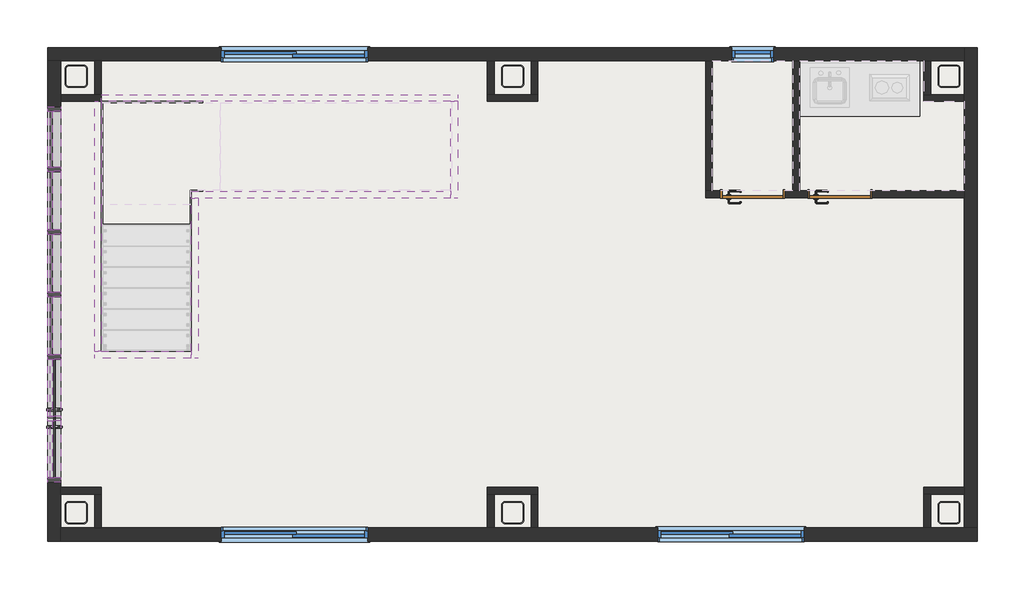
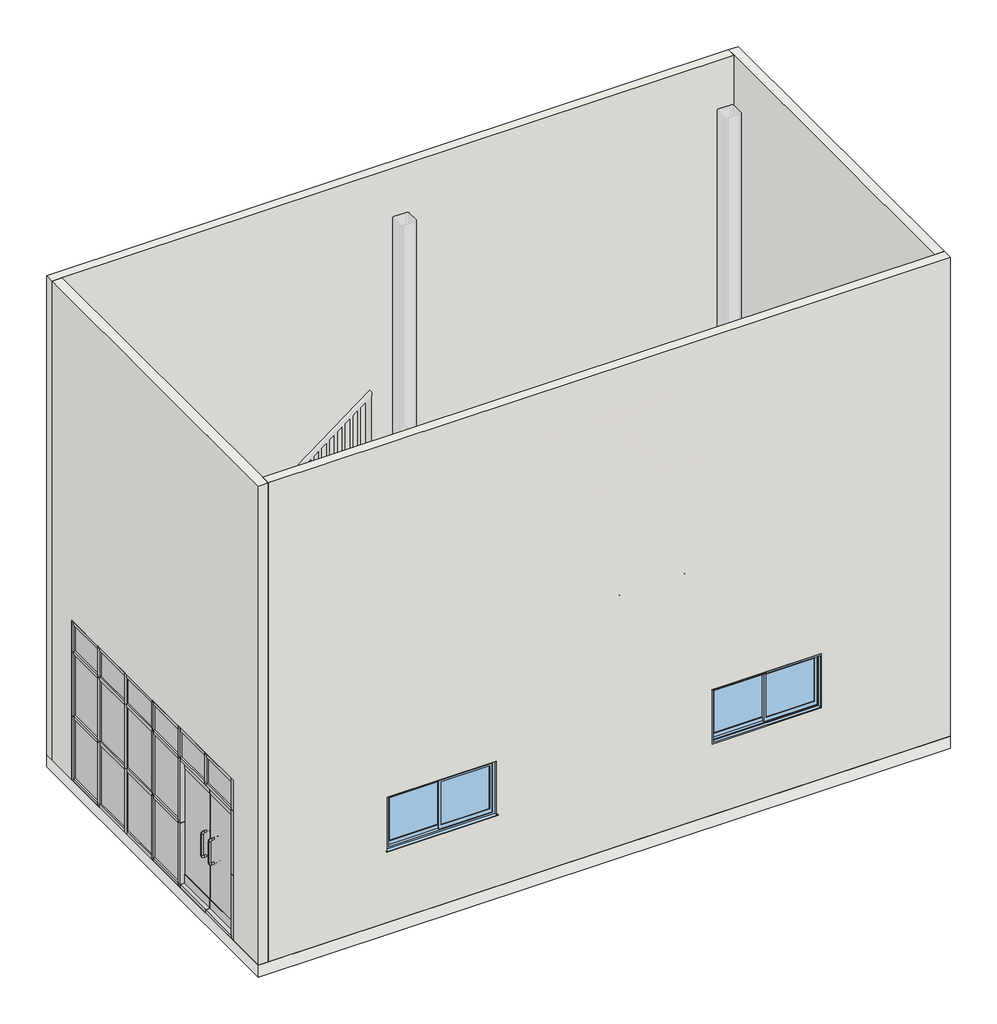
# One storey, part 1 of 2: 41 members, 27 walls, 15 plates, 4 windows, 2 doors, 1 slab.
"""IFC4 building model written with IfcOpenShell, lengths in millimetres."""

from ifc_helpers import new_model, si_unit, frame, origin, origin_with_axes, place, context, project, spatial, polyline, outline, extrude, faceted_brep, transform, mapped, element, save
from components import w700h2000_2a992a34, member_50x150mm_a0e2e66f, member_50x150mm_a9c68ae1, member_50x150mm_62bde7b1, member_50x150mm_43fc7b63, member_50x150mm_86d21357, member_50x150mm_22f77a7a, member_50x150mm_8a69f4a4, member_50x150mm_b3666dbd, member_50x150mm_1a36453b, member_50x150mm_5157afd8, member_50x150mm_37d6beb1, member_50x150mm_f4543df4, plate_bb3d00ed, plate_81b017a3, plate_3e90128c, plate_3f01d40e, plate_8868ab24, plate_6b8e4332, plate_e66cd56a, plate_cf903d6a, w0400h0800_0b9f01bb, w1600h0800_d7cd19be

model = new_model("IFC4")

# Units and contexts
model_context = context("Model", 3, world=origin())
ifc_project = project(units=[si_unit("LENGTHUNIT", "METRE", prefix="MILLI")], contexts=[model_context])

# Site, building, storey
site = spatial("IfcSite", under=ifc_project)
building = spatial("IfcBuilding", under=site)
storey = spatial("IfcBuildingStorey", under=building, Name="1階", Elevation=200.0)

# Doors
placement = place(None, origin())
w700h2000_shape = w700h2000_2a992a34(model_context)
element("IfcDoor", 1, ObjectType="片開き : w700h2000", at=placement, inside=storey, context=model_context, shape_type="MappedRepresentation", body=[
    mapped(w700h2000_shape, transform((2702.6119436, 1236.0382733, 200.0), x_axis=(1.0, 0.0, 0.0), y_axis=(0.0, 1.0, 0.0), z_axis=(0.0, 0.0, 1.0))),
])
element("IfcDoor", 2, ObjectType="片開き : w700h2000", at=placement, inside=storey, context=model_context, shape_type="MappedRepresentation", body=[
    mapped(w700h2000_shape, transform((3702.6119436, 1236.0382733, 200.0), x_axis=(1.0, 0.0, 0.0), y_axis=(0.0, 1.0, 0.0), z_axis=(0.0, 0.0, 1.0))),
])

# Members
member_50x150mm_shape = member_50x150mm_a0e2e66f(model_context)
element("IfcMember", 3, ObjectType="長方形マリオン : 50x150mm", at=placement, inside=storey, context=model_context, shape_type="MappedRepresentation", body=[
    mapped(member_50x150mm_shape, transform((-5297.3880564, 2186.0382733, 2800.0), x_axis=(0.0, 0.0, 1.0), y_axis=(1.0, 0.0, 0.0), z_axis=(0.0, 1.0, 0.0))),
])
member_50x150mm_2_shape = member_50x150mm_a9c68ae1(model_context)
element("IfcMember", 4, ObjectType="長方形マリオン : 50x150mm", at=placement, inside=storey, context=model_context, shape_type="MappedRepresentation", body=[
    mapped(member_50x150mm_2_shape, transform((-5297.3880564, 86.0382733, 200.0), x_axis=(0.0, 1.0, 0.0), y_axis=(1.0, 0.0, 0.0), z_axis=(0.0, 0.0, -1.0))),
])
element("IfcMember", 5, ObjectType="長方形マリオン : 50x150mm", at=placement, inside=storey, context=model_context, shape_type="MappedRepresentation", body=[
    mapped(member_50x150mm_2_shape, transform((-5297.3880564, 1519.3716066, 200.0), x_axis=(0.0, 1.0, 0.0), y_axis=(1.0, 0.0, 0.0), z_axis=(0.0, 0.0, -1.0))),
])
element("IfcMember", 6, ObjectType="長方形マリオン : 50x150mm", at=placement, inside=storey, context=model_context, shape_type="MappedRepresentation", body=[
    mapped(member_50x150mm_2_shape, transform((-5297.3880564, 802.7049399, 200.0), x_axis=(0.0, 1.0, 0.0), y_axis=(1.0, 0.0, 0.0), z_axis=(0.0, 0.0, -1.0))),
])
element("IfcMember", 7, ObjectType="長方形マリオン : 50x150mm", at=placement, inside=storey, context=model_context, shape_type="MappedRepresentation", body=[
    mapped(member_50x150mm_2_shape, transform((-5297.3880564, -630.6283934, 200.0), x_axis=(0.0, 1.0, 0.0), y_axis=(1.0, 0.0, 0.0), z_axis=(0.0, 0.0, -1.0))),
])
member_50x150mm_3_shape = member_50x150mm_62bde7b1(model_context)
element("IfcMember", 8, ObjectType="長方形マリオン : 50x150mm", at=placement, inside=storey, context=model_context, shape_type="MappedRepresentation", body=[
    mapped(member_50x150mm_3_shape, transform((-5297.3880564, 2186.0382733, 2300.0), x_axis=(0.0, 0.0, 1.0), y_axis=(1.0, 0.0, 0.0), z_axis=(0.0, 1.0, 0.0))),
])
element("IfcMember", 9, ObjectType="長方形マリオン : 50x150mm", at=placement, inside=storey, context=model_context, shape_type="MappedRepresentation", body=[
    mapped(member_50x150mm_3_shape, transform((-5297.3880564, 2186.0382733, 1250.0), x_axis=(0.0, 0.0, 1.0), y_axis=(1.0, 0.0, 0.0), z_axis=(0.0, 1.0, 0.0))),
])
member_50x150mm_4_shape = member_50x150mm_43fc7b63(model_context)
element("IfcMember", 10, ObjectType="長方形マリオン : 50x150mm", at=placement, inside=storey, context=model_context, shape_type="MappedRepresentation", body=[
    mapped(member_50x150mm_4_shape, transform((-5297.3880564, 777.7049399, 2300.0), x_axis=(0.0, 0.0, 1.0), y_axis=(1.0, 0.0, 0.0), z_axis=(0.0, 1.0, 0.0))),
])
element("IfcMember", 11, ObjectType="長方形マリオン : 50x150mm", at=placement, inside=storey, context=model_context, shape_type="MappedRepresentation", body=[
    mapped(member_50x150mm_4_shape, transform((-5297.3880564, 1494.3716066, 2300.0), x_axis=(0.0, 0.0, 1.0), y_axis=(1.0, 0.0, 0.0), z_axis=(0.0, 1.0, 0.0))),
])
element("IfcMember", 12, ObjectType="長方形マリオン : 50x150mm", at=placement, inside=storey, context=model_context, shape_type="MappedRepresentation", body=[
    mapped(member_50x150mm_4_shape, transform((-5297.3880564, 61.0382733, 2300.0), x_axis=(0.0, 0.0, 1.0), y_axis=(1.0, 0.0, 0.0), z_axis=(0.0, 1.0, 0.0))),
])
element("IfcMember", 13, ObjectType="長方形マリオン : 50x150mm", at=placement, inside=storey, context=model_context, shape_type="MappedRepresentation", body=[
    mapped(member_50x150mm_4_shape, transform((-5297.3880564, 777.7049399, 1250.0), x_axis=(0.0, 0.0, 1.0), y_axis=(1.0, 0.0, 0.0), z_axis=(0.0, 1.0, 0.0))),
])
element("IfcMember", 14, ObjectType="長方形マリオン : 50x150mm", at=placement, inside=storey, context=model_context, shape_type="MappedRepresentation", body=[
    mapped(member_50x150mm_4_shape, transform((-5297.3880564, 1494.3716066, 1250.0), x_axis=(0.0, 0.0, 1.0), y_axis=(1.0, 0.0, 0.0), z_axis=(0.0, 1.0, 0.0))),
])
element("IfcMember", 15, ObjectType="長方形マリオン : 50x150mm", at=placement, inside=storey, context=model_context, shape_type="MappedRepresentation", body=[
    mapped(member_50x150mm_4_shape, transform((-5297.3880564, 61.0382733, 1250.0), x_axis=(0.0, 0.0, 1.0), y_axis=(1.0, 0.0, 0.0), z_axis=(0.0, 1.0, 0.0))),
])
member_50x150mm_5_shape = member_50x150mm_86d21357(model_context)
element("IfcMember", 16, ObjectType="長方形マリオン : 50x150mm", at=placement, inside=storey, context=model_context, shape_type="MappedRepresentation", body=[
    mapped(member_50x150mm_5_shape, transform((-5297.3880564, 111.0382733, 200.0), x_axis=(0.0, 0.0, -1.0), y_axis=(1.0, 0.0, 0.0), z_axis=(0.0, -1.0, 0.0))),
])
element("IfcMember", 17, ObjectType="長方形マリオン : 50x150mm", at=placement, inside=storey, context=model_context, shape_type="MappedRepresentation", body=[
    mapped(member_50x150mm_5_shape, transform((-5297.3880564, 827.7049399, 200.0), x_axis=(0.0, 0.0, -1.0), y_axis=(1.0, 0.0, 0.0), z_axis=(0.0, -1.0, 0.0))),
])
element("IfcMember", 18, ObjectType="長方形マリオン : 50x150mm", at=placement, inside=storey, context=model_context, shape_type="MappedRepresentation", body=[
    mapped(member_50x150mm_5_shape, transform((-5297.3880564, -605.6283934, 200.0), x_axis=(0.0, 0.0, -1.0), y_axis=(1.0, 0.0, 0.0), z_axis=(0.0, -1.0, 0.0))),
])
element("IfcMember", 19, ObjectType="長方形マリオン : 50x150mm", at=placement, inside=storey, context=model_context, shape_type="MappedRepresentation", body=[
    mapped(member_50x150mm_shape, transform((-5297.3880564, 1544.3716066, 200.0), x_axis=(0.0, 0.0, -1.0), y_axis=(1.0, 0.0, 0.0), z_axis=(0.0, -1.0, 0.0))),
])
element("IfcMember", 20, ObjectType="長方形マリオン : 50x150mm", at=placement, inside=storey, context=model_context, shape_type="MappedRepresentation", body=[
    mapped(member_50x150mm_5_shape, transform((-5297.3880564, 61.0382733, 2800.0), x_axis=(0.0, 0.0, 1.0), y_axis=(1.0, 0.0, 0.0), z_axis=(0.0, 1.0, 0.0))),
])
element("IfcMember", 21, ObjectType="長方形マリオン : 50x150mm", at=placement, inside=storey, context=model_context, shape_type="MappedRepresentation", body=[
    mapped(member_50x150mm_5_shape, transform((-5297.3880564, 1494.3716066, 2800.0), x_axis=(0.0, 0.0, 1.0), y_axis=(1.0, 0.0, 0.0), z_axis=(0.0, 1.0, 0.0))),
])
element("IfcMember", 22, ObjectType="長方形マリオン : 50x150mm", at=placement, inside=storey, context=model_context, shape_type="MappedRepresentation", body=[
    mapped(member_50x150mm_5_shape, transform((-5297.3880564, 777.7049399, 2800.0), x_axis=(0.0, 0.0, 1.0), y_axis=(1.0, 0.0, 0.0), z_axis=(0.0, 1.0, 0.0))),
])
member_50x150mm_6_shape = member_50x150mm_22f77a7a(model_context)
element("IfcMember", 23, ObjectType="長方形マリオン : 50x150mm", at=placement, inside=storey, context=model_context, shape_type="MappedRepresentation", body=[
    mapped(member_50x150mm_6_shape, transform((-5297.3880564, 86.0382733, 2300.0), x_axis=(0.0, 1.0, 0.0), y_axis=(1.0, 0.0, 0.0), z_axis=(0.0, 0.0, -1.0))),
])
element("IfcMember", 24, ObjectType="長方形マリオン : 50x150mm", at=placement, inside=storey, context=model_context, shape_type="MappedRepresentation", body=[
    mapped(member_50x150mm_6_shape, transform((-5297.3880564, 1519.3716066, 2300.0), x_axis=(0.0, 1.0, 0.0), y_axis=(1.0, 0.0, 0.0), z_axis=(0.0, 0.0, -1.0))),
])
element("IfcMember", 25, ObjectType="長方形マリオン : 50x150mm", at=placement, inside=storey, context=model_context, shape_type="MappedRepresentation", body=[
    mapped(member_50x150mm_6_shape, transform((-5297.3880564, 802.7049399, 2300.0), x_axis=(0.0, 1.0, 0.0), y_axis=(1.0, 0.0, 0.0), z_axis=(0.0, 0.0, -1.0))),
])
element("IfcMember", 26, ObjectType="長方形マリオン : 50x150mm", at=placement, inside=storey, context=model_context, shape_type="MappedRepresentation", body=[
    mapped(member_50x150mm_6_shape, transform((-5297.3880564, -630.6283934, 2300.0), x_axis=(0.0, 1.0, 0.0), y_axis=(1.0, 0.0, 0.0), z_axis=(0.0, 0.0, -1.0))),
])
element("IfcMember", 27, ObjectType="長方形マリオン : 50x150mm", at=placement, inside=storey, context=model_context, shape_type="MappedRepresentation", body=[
    mapped(member_50x150mm_2_shape, transform((-5297.3880564, 86.0382733, 1250.0), x_axis=(0.0, 1.0, 0.0), y_axis=(1.0, 0.0, 0.0), z_axis=(0.0, 0.0, -1.0))),
])
element("IfcMember", 28, ObjectType="長方形マリオン : 50x150mm", at=placement, inside=storey, context=model_context, shape_type="MappedRepresentation", body=[
    mapped(member_50x150mm_2_shape, transform((-5297.3880564, 1519.3716066, 1250.0), x_axis=(0.0, 1.0, 0.0), y_axis=(1.0, 0.0, 0.0), z_axis=(0.0, 0.0, -1.0))),
])
element("IfcMember", 29, ObjectType="長方形マリオン : 50x150mm", at=placement, inside=storey, context=model_context, shape_type="MappedRepresentation", body=[
    mapped(member_50x150mm_2_shape, transform((-5297.3880564, 802.7049399, 1250.0), x_axis=(0.0, 1.0, 0.0), y_axis=(1.0, 0.0, 0.0), z_axis=(0.0, 0.0, -1.0))),
])
element("IfcMember", 30, ObjectType="長方形マリオン : 50x150mm", at=placement, inside=storey, context=model_context, shape_type="MappedRepresentation", body=[
    mapped(member_50x150mm_2_shape, transform((-5297.3880564, -630.6283934, 1250.0), x_axis=(0.0, 1.0, 0.0), y_axis=(1.0, 0.0, 0.0), z_axis=(0.0, 0.0, -1.0))),
])
member_50x150mm_7_shape = member_50x150mm_8a69f4a4(model_context)
element("IfcMember", 31, ObjectType="長方形マリオン : 50x150mm", at=placement, inside=storey, context=model_context, shape_type="MappedRepresentation", body=[
    mapped(member_50x150mm_7_shape, transform((-5297.3880564, -1334.7950601, 2275.0), x_axis=(0.0, 1.0, 0.0), y_axis=(1.0, 0.0, 0.0), z_axis=(0.0, 0.0, -1.0))),
])
member_50x150mm_8_shape = member_50x150mm_b3666dbd(model_context)
element("IfcMember", 32, ObjectType="長方形マリオン : 50x150mm", at=placement, inside=storey, context=model_context, shape_type="MappedRepresentation", body=[
    mapped(member_50x150mm_8_shape, transform((-5297.3880564, -2063.9617267, 2800.0), x_axis=(0.0, -1.0, 0.0), y_axis=(1.0, 0.0, 0.0), z_axis=(0.0, 0.0, 1.0))),
])
member_50x150mm_9_shape = member_50x150mm_1a36453b(model_context)
element("IfcMember", 33, ObjectType="長方形マリオン : 50x150mm", at=placement, inside=storey, context=model_context, shape_type="MappedRepresentation", body=[
    mapped(member_50x150mm_9_shape, transform((-5297.3880564, 2236.0382733, 200.0), x_axis=(0.0, 1.0, 0.0), y_axis=(1.0, 0.0, 0.0), z_axis=(0.0, 0.0, -1.0))),
])
element("IfcMember", 34, ObjectType="長方形マリオン : 50x150mm", at=placement, inside=storey, context=model_context, shape_type="MappedRepresentation", body=[
    mapped(member_50x150mm_8_shape, transform((-5297.3880564, 2236.0382733, 2300.0), x_axis=(0.0, 1.0, 0.0), y_axis=(1.0, 0.0, 0.0), z_axis=(0.0, 0.0, -1.0))),
])
element("IfcMember", 35, ObjectType="長方形マリオン : 50x150mm", at=placement, inside=storey, context=model_context, shape_type="MappedRepresentation", body=[
    mapped(member_50x150mm_9_shape, transform((-5297.3880564, 2236.0382733, 1250.0), x_axis=(0.0, 1.0, 0.0), y_axis=(1.0, 0.0, 0.0), z_axis=(0.0, 0.0, -1.0))),
])
element("IfcMember", 36, ObjectType="長方形マリオン : 50x150mm", at=placement, inside=storey, context=model_context, shape_type="MappedRepresentation", body=[
    mapped(member_50x150mm_9_shape, transform((-5297.3880564, -2063.9617267, 2300.0), x_axis=(0.0, -1.0, 0.0), y_axis=(1.0, 0.0, 0.0), z_axis=(0.0, 0.0, 1.0))),
])
element("IfcMember", 37, ObjectType="長方形マリオン : 50x150mm", at=placement, inside=storey, context=model_context, shape_type="MappedRepresentation", body=[
    mapped(member_50x150mm_9_shape, transform((-5297.3880564, -2063.9617267, 1250.0), x_axis=(0.0, -1.0, 0.0), y_axis=(1.0, 0.0, 0.0), z_axis=(0.0, 0.0, 1.0))),
])
member_50x150mm_10_shape = member_50x150mm_5157afd8(model_context)
element("IfcMember", 38, ObjectType="長方形マリオン : 50x150mm", at=placement, inside=storey, context=model_context, shape_type="MappedRepresentation", body=[
    mapped(member_50x150mm_10_shape, transform((-5297.3880564, -2013.9617267, 200.0), x_axis=(0.0, 0.0, -1.0), y_axis=(1.0, 0.0, 0.0), z_axis=(0.0, -1.0, 0.0))),
])
member_50x150mm_11_shape = member_50x150mm_37d6beb1(model_context)
element("IfcMember", 39, ObjectType="長方形マリオン : 50x150mm", at=placement, inside=storey, context=model_context, shape_type="MappedRepresentation", body=[
    mapped(member_50x150mm_11_shape, transform((-5297.3880564, -1359.7950601, 2300.0), x_axis=(0.0, 0.0, 1.0), y_axis=(1.0, 0.0, 0.0), z_axis=(0.0, 1.0, 0.0))),
])
element("IfcMember", 40, ObjectType="長方形マリオン : 50x150mm", at=placement, inside=storey, context=model_context, shape_type="MappedRepresentation", body=[
    mapped(member_50x150mm_11_shape, transform((-5297.3880564, -655.6283934, 2300.0), x_axis=(0.0, 0.0, 1.0), y_axis=(1.0, 0.0, 0.0), z_axis=(0.0, 1.0, 0.0))),
])
element("IfcMember", 41, ObjectType="長方形マリオン : 50x150mm", at=placement, inside=storey, context=model_context, shape_type="MappedRepresentation", body=[
    mapped(member_50x150mm_10_shape, transform((-5297.3880564, -1334.7950601, 200.0), x_axis=(0.0, 0.0, -1.0), y_axis=(1.0, 0.0, 0.0), z_axis=(0.0, -1.0, 0.0))),
])
member_50x150mm_12_shape = member_50x150mm_f4543df4(model_context)
element("IfcMember", 42, ObjectType="長方形マリオン : 50x150mm", at=placement, inside=storey, context=model_context, shape_type="MappedRepresentation", body=[
    mapped(member_50x150mm_12_shape, transform((-5297.3880564, -655.6283934, 2800.0), x_axis=(0.0, 0.0, 1.0), y_axis=(1.0, 0.0, 0.0), z_axis=(0.0, 1.0, 0.0))),
])
element("IfcMember", 43, ObjectType="長方形マリオン : 50x150mm", at=placement, inside=storey, context=model_context, shape_type="MappedRepresentation", body=[
    mapped(member_50x150mm_12_shape, transform((-5297.3880564, -1359.7950601, 2800.0), x_axis=(0.0, 0.0, 1.0), y_axis=(1.0, 0.0, 0.0), z_axis=(0.0, 1.0, 0.0))),
])

# Plates
plate_shape = plate_bb3d00ed(model_context)
element("IfcPlate", 44, ObjectType="システム パネル1 : ガラス", at=placement, inside=storey, context=model_context, shape_type="MappedRepresentation", body=[
    mapped(plate_shape, transform((-5297.3880564, 444.3716066, 250.0), x_axis=(0.0, 1.0, 0.0), y_axis=(-1.0, 0.0, 0.0), z_axis=(0.0, 0.0, 1.0))),
])
element("IfcPlate", 45, ObjectType="システム パネル1 : ガラス", at=placement, inside=storey, context=model_context, shape_type="MappedRepresentation", body=[
    mapped(plate_shape, transform((-5297.3880564, 1161.0382733, 250.0), x_axis=(0.0, 1.0, 0.0), y_axis=(-1.0, 0.0, 0.0), z_axis=(0.0, 0.0, 1.0))),
])
element("IfcPlate", 46, ObjectType="システム パネル1 : ガラス", at=placement, inside=storey, context=model_context, shape_type="MappedRepresentation", body=[
    mapped(plate_shape, transform((-5297.3880564, -272.2950601, 250.0), x_axis=(0.0, 1.0, 0.0), y_axis=(-1.0, 0.0, 0.0), z_axis=(0.0, 0.0, 1.0))),
])
plate_2_shape = plate_81b017a3(model_context)
element("IfcPlate", 47, ObjectType="システム パネル1 : ガラス", at=placement, inside=storey, context=model_context, shape_type="MappedRepresentation", body=[
    mapped(plate_2_shape, transform((-5297.3880564, 1865.2049399, 250.0), x_axis=(0.0, 1.0, 0.0), y_axis=(-1.0, 0.0, 0.0), z_axis=(0.0, 0.0, 1.0))),
])
plate_3_shape = plate_3e90128c(model_context)
element("IfcPlate", 48, ObjectType="システム パネル1 : ガラス", at=placement, inside=storey, context=model_context, shape_type="MappedRepresentation", body=[
    mapped(plate_3_shape, transform((-5297.3880564, 1865.2049399, 2325.0), x_axis=(0.0, 1.0, 0.0), y_axis=(-1.0, 0.0, 0.0), z_axis=(0.0, 0.0, 1.0))),
])
plate_4_shape = plate_3f01d40e(model_context)
element("IfcPlate", 49, ObjectType="システム パネル1 : ガラス", at=placement, inside=storey, context=model_context, shape_type="MappedRepresentation", body=[
    mapped(plate_4_shape, transform((-5297.3880564, -272.2950601, 2325.0), x_axis=(0.0, 1.0, 0.0), y_axis=(-1.0, 0.0, 0.0), z_axis=(0.0, 0.0, 1.0))),
])
element("IfcPlate", 50, ObjectType="システム パネル1 : ガラス", at=placement, inside=storey, context=model_context, shape_type="MappedRepresentation", body=[
    mapped(plate_4_shape, transform((-5297.3880564, 444.3716066, 2325.0), x_axis=(0.0, 1.0, 0.0), y_axis=(-1.0, 0.0, 0.0), z_axis=(0.0, 0.0, 1.0))),
])
element("IfcPlate", 51, ObjectType="システム パネル1 : ガラス", at=placement, inside=storey, context=model_context, shape_type="MappedRepresentation", body=[
    mapped(plate_4_shape, transform((-5297.3880564, 1161.0382733, 2325.0), x_axis=(0.0, 1.0, 0.0), y_axis=(-1.0, 0.0, 0.0), z_axis=(0.0, 0.0, 1.0))),
])
plate_5_shape = plate_8868ab24(model_context)
element("IfcPlate", 52, ObjectType="システム パネル1 : ガラス", at=placement, inside=storey, context=model_context, shape_type="MappedRepresentation", body=[
    mapped(plate_5_shape, transform((-5297.3880564, -272.2950601, 1275.0), x_axis=(0.0, 1.0, 0.0), y_axis=(-1.0, 0.0, 0.0), z_axis=(0.0, 0.0, 1.0))),
])
element("IfcPlate", 53, ObjectType="システム パネル1 : ガラス", at=placement, inside=storey, context=model_context, shape_type="MappedRepresentation", body=[
    mapped(plate_5_shape, transform((-5297.3880564, 444.3716066, 1275.0), x_axis=(0.0, 1.0, 0.0), y_axis=(-1.0, 0.0, 0.0), z_axis=(0.0, 0.0, 1.0))),
])
element("IfcPlate", 54, ObjectType="システム パネル1 : ガラス", at=placement, inside=storey, context=model_context, shape_type="MappedRepresentation", body=[
    mapped(plate_5_shape, transform((-5297.3880564, 1161.0382733, 1275.0), x_axis=(0.0, 1.0, 0.0), y_axis=(-1.0, 0.0, 0.0), z_axis=(0.0, 0.0, 1.0))),
])
plate_6_shape = plate_6b8e4332(model_context)
element("IfcPlate", 55, ObjectType="システム パネル1 : ガラス", at=placement, inside=storey, context=model_context, shape_type="MappedRepresentation", body=[
    mapped(plate_6_shape, transform((-5297.3880564, 1865.2049399, 1275.0), x_axis=(0.0, 1.0, 0.0), y_axis=(-1.0, 0.0, 0.0), z_axis=(0.0, 0.0, 1.0))),
])
plate_7_shape = plate_e66cd56a(model_context)
element("IfcPlate", 56, ObjectType="両開き - ヒンジ2 : ガラス パネル", at=placement, inside=storey, context=model_context, shape_type="MappedRepresentation", body=[
    mapped(plate_7_shape, transform((-5297.3880564, -1334.7950601, 250.0), x_axis=(0.0, 1.0, 0.0), y_axis=(-1.0, 0.0, 0.0), z_axis=(0.0, 0.0, 1.0))),
])
plate_8_shape = plate_cf903d6a(model_context)
element("IfcPlate", 57, ObjectType="システム パネル1 : ガラス", at=placement, inside=storey, context=model_context, shape_type="MappedRepresentation", body=[
    mapped(plate_8_shape, transform((-5297.3880564, -1686.8783934, 2325.0), x_axis=(0.0, 1.0, 0.0), y_axis=(-1.0, 0.0, 0.0), z_axis=(0.0, 0.0, 1.0))),
])
element("IfcPlate", 58, ObjectType="システム パネル1 : ガラス", at=placement, inside=storey, context=model_context, shape_type="MappedRepresentation", body=[
    mapped(plate_8_shape, transform((-5297.3880564, -982.7117267, 2325.0), x_axis=(0.0, 1.0, 0.0), y_axis=(-1.0, 0.0, 0.0), z_axis=(0.0, 0.0, 1.0))),
])

# Slab
element("IfcSlab", 59, ObjectType="一般 200 mm", at=placement, inside=storey, context=model_context, shape_type="SweptSolid", body=[
    extrude(outline(polyline([(5277.6119436, 2911.0382733), (5277.6119436, -2738.9617267), (-5372.3880564, -2738.9617267), (-5372.3880564, 2911.0382733), (5277.6119436, 2911.0382733)])), origin_with_axes(), (0.0, 0.0, 1.0), 200.0),
])

# Walls
element("IfcWall", 60, ObjectType="標準-150mm", at=placement, inside=storey, context=model_context, shape_type="Brep", body=[
    faceted_brep([(-5372.3880564, 2761.0382733, 200.0), (-5222.3880564, 2761.0382733, 200.0), (-4836.8880564, 2761.0382733, 200.0), (-4757.8880564, 2761.0382733, 200.0), (-336.8880564, 2761.0382733, 200.0), (-257.8880564, 2761.0382733, 200.0), (163.1119436, 2761.0382733, 200.0), (242.1119436, 2761.0382733, 200.0), (2163.1119436, 2761.0382733, 200.0), (2242.1119436, 2761.0382733, 200.0), (3163.1119436, 2761.0382733, 200.0), (3242.1119436, 2761.0382733, 200.0), (4663.1119436, 2761.0382733, 200.0), (4742.1119436, 2761.0382733, 200.0), (5127.6119436, 2761.0382733, 200.0), (5127.6119436, 2761.0382733, 8000.0), (-5222.3880564, 2761.0382733, 8000.0), (-5372.3880564, 2761.0382733, 8000.0), (-1707.3880564, 2761.0382733, 2240.0), (-1707.3880564, 2761.0382733, 1360.0), (-3387.3880564, 2761.0382733, 1360.0), (-3387.3880564, 2761.0382733, 2240.0), (2942.6119436, 2761.0382733, 2240.0), (2942.6119436, 2761.0382733, 1360.0), (2462.6119436, 2761.0382733, 1360.0), (2462.6119436, 2761.0382733, 2240.0), (-5372.3880564, 2911.0382733, 200.0), (-5372.3880564, 2911.0382733, 8000.0), (5127.6119436, 2911.0382733, 8000.0), (5127.6119436, 2911.0382733, 200.0), (-1707.3880564, 2911.0382733, 2240.0), (-3387.3880564, 2911.0382733, 2240.0), (-3387.3880564, 2911.0382733, 1360.0), (-1707.3880564, 2911.0382733, 1360.0), (2942.6119436, 2911.0382733, 2240.0), (2462.6119436, 2911.0382733, 2240.0), (2462.6119436, 2911.0382733, 1360.0), (2942.6119436, 2911.0382733, 1360.0)], [[[0, 1, 2, 3, 4, 5, 6, 7, 8, 9, 10, 11, 12, 13, 14, 15, 16, 17], [18, 19, 20, 21], [22, 23, 24, 25]], [[26, 27, 28, 29], [30, 31, 32, 33], [34, 35, 36, 37]], [[14, 13, 12, 11, 10, 9, 8, 7, 6, 5, 4, 3, 2, 1, 0, 26, 29]], [[17, 16, 15, 28, 27]], [[0, 17, 27, 26]], [[15, 14, 29, 28]], [[19, 18, 30, 33]], [[20, 19, 33, 32]], [[21, 20, 32, 31]], [[18, 21, 31, 30]], [[23, 22, 34, 37]], [[24, 23, 37, 36]], [[25, 24, 36, 35]], [[22, 25, 35, 34]]]),
])
element("IfcWall", 61, ObjectType="標準-150mm", at=placement, inside=storey, context=model_context, shape_type="Brep", body=[
    faceted_brep([(-5222.3880564, 2761.0382733, 8000.0), (-5222.3880564, -2588.9617267, 8000.0), (-5222.3880564, -2738.9617267, 8000.0), (-5222.3880564, -2738.9617267, 200.0), (-5222.3880564, -2588.9617267, 200.0), (-5222.3880564, -2203.4617267, 200.0), (-5222.3880564, -2124.4617267, 200.0), (-5222.3880564, -2063.9617267, 200.0), (-5222.3880564, -2063.9617267, 2800.0), (-5222.3880564, 2236.0382733, 2800.0), (-5222.3880564, 2236.0382733, 200.0), (-5222.3880564, 2296.5382733, 200.0), (-5222.3880564, 2375.5382733, 200.0), (-5222.3880564, 2761.0382733, 200.0), (-5372.3880564, -2738.9617267, 8000.0), (-5372.3880564, 2761.0382733, 8000.0), (-5372.3880564, 2761.0382733, 200.0), (-5372.3880564, 2236.0382733, 200.0), (-5372.3880564, 2236.0382733, 2800.0), (-5372.3880564, -2063.9617267, 2800.0), (-5372.3880564, -2063.9617267, 200.0), (-5372.3880564, -2738.9617267, 200.0)], [[[0, 1, 2, 3, 4, 5, 6, 7, 8, 9, 10, 11, 12, 13]], [[14, 15, 16, 17, 18, 19, 20, 21]], [[3, 21, 20, 7, 6, 5, 4]], [[16, 13, 12, 11, 10, 17]], [[2, 1, 0, 15, 14]], [[3, 2, 14, 21]], [[0, 13, 16, 15]], [[19, 8, 7, 20]], [[8, 19, 18, 9]], [[9, 18, 17, 10]]]),
])
element("IfcWall", 62, ObjectType="標準-150mm", at=placement, inside=storey, context=model_context, shape_type="Brep", body=[
    faceted_brep([(5277.6119436, -2588.9617267, 200.0), (5127.6119436, -2588.9617267, 200.0), (4742.1119436, -2588.9617267, 200.0), (4663.1119436, -2588.9617267, 200.0), (242.1119436, -2588.9617267, 200.0), (163.1119436, -2588.9617267, 200.0), (-257.8880564, -2588.9617267, 200.0), (-336.8880564, -2588.9617267, 200.0), (-4757.8880564, -2588.9617267, 200.0), (-4836.8880564, -2588.9617267, 200.0), (-5222.3880564, -2588.9617267, 200.0), (-5222.3880564, -2588.9617267, 8000.0), (5127.6119436, -2588.9617267, 8000.0), (5277.6119436, -2588.9617267, 8000.0), (-3387.3880564, -2588.9617267, 2240.0), (-3387.3880564, -2588.9617267, 1360.0), (-1707.3880564, -2588.9617267, 1360.0), (-1707.3880564, -2588.9617267, 2240.0), (3292.6119436, -2588.9617267, 2240.0), (1612.6119436, -2588.9617267, 2240.0), (1612.6119436, -2588.9617267, 1360.0), (3292.6119436, -2588.9617267, 1360.0), (5277.6119436, -2738.9617267, 200.0), (5277.6119436, -2738.9617267, 8000.0), (-5222.3880564, -2738.9617267, 8000.0), (-5222.3880564, -2738.9617267, 200.0), (-3387.3880564, -2738.9617267, 2240.0), (-1707.3880564, -2738.9617267, 2240.0), (-1707.3880564, -2738.9617267, 1360.0), (-3387.3880564, -2738.9617267, 1360.0), (3292.6119436, -2738.9617267, 2240.0), (3292.6119436, -2738.9617267, 1360.0), (1612.6119436, -2738.9617267, 1360.0), (1612.6119436, -2738.9617267, 2240.0)], [[[0, 1, 2, 3, 4, 5, 6, 7, 8, 9, 10, 11, 12, 13], [14, 15, 16, 17], [18, 19, 20, 21]], [[22, 23, 24, 25], [26, 27, 28, 29], [30, 31, 32, 33]], [[10, 9, 8, 7, 6, 5, 4, 3, 2, 1, 0, 22, 25]], [[13, 12, 11, 24, 23]], [[0, 13, 23, 22]], [[11, 10, 25, 24]], [[15, 14, 26, 29]], [[16, 15, 29, 28]], [[17, 16, 28, 27]], [[14, 17, 27, 26]], [[31, 30, 18, 21]], [[32, 31, 21, 20]], [[33, 32, 20, 19]], [[30, 33, 19, 18]]]),
])
element("IfcWall", 63, ObjectType="標準-150mm", at=placement, inside=storey, context=model_context, shape_type="Brep", body=[
    faceted_brep([(5127.6119436, 2911.0382733, 200.0), (5127.6119436, 2761.0382733, 200.0), (5127.6119436, 2375.5382733, 200.0), (5127.6119436, 2296.5382733, 200.0), (5127.6119436, 1275.5382733, 200.0), (5127.6119436, 1196.5382733, 200.0), (5127.6119436, -2124.4617267, 200.0), (5127.6119436, -2203.4617267, 200.0), (5127.6119436, -2588.9617267, 200.0), (5127.6119436, -2588.9617267, 8000.0), (5127.6119436, 2761.0382733, 8000.0), (5127.6119436, 2911.0382733, 8000.0), (5277.6119436, 2911.0382733, 200.0), (5277.6119436, 2911.0382733, 8000.0), (5277.6119436, -2588.9617267, 8000.0), (5277.6119436, -2588.9617267, 200.0)], [[[0, 1, 2, 3, 4, 5, 6, 7, 8, 9, 10, 11]], [[12, 13, 14, 15]], [[8, 7, 6, 5, 4, 3, 2, 1, 0, 12, 15]], [[11, 10, 9, 14, 13]], [[0, 11, 13, 12]], [[9, 8, 15, 14]]]),
])
element("IfcWall", 64, ObjectType="内壁-79mm 間仕切り(1時間)", at=placement, inside=storey, context=model_context, shape_type="SweptSolid", body=[
    extrude(outline(polyline([(-4836.8880564, 2375.5382733), (-4836.8880564, 2761.0382733), (-4757.8880564, 2761.0382733), (-4757.8880564, 2375.5382733), (-4836.8880564, 2375.5382733)])), frame((0.0, 0.0, 200.0), z_axis=(0.0, 0.0, 1.0), x_axis=(1.0, 0.0, 0.0)), (0.0, 0.0, 1.0), 3450.0),
])
element("IfcWall", 65, ObjectType="内壁-79mm 間仕切り(1時間)", at=placement, inside=storey, context=model_context, shape_type="Brep", body=[
    faceted_brep([(-4757.8880564, 2375.5382733, 3650.0), (-4757.8880564, 2375.5382733, 2852.0), (-4757.8880564, 2375.5382733, 200.0), (-4836.8880564, 2375.5382733, 200.0), (-5222.3880564, 2375.5382733, 200.0), (-5222.3880564, 2375.5382733, 3650.0), (-4836.8880564, 2375.5382733, 3650.0), (-4757.8880564, 2296.5382733, 200.0), (-4757.8880564, 2296.5382733, 2852.0), (-4757.8880564, 2296.5382733, 3650.0), (-4836.8880564, 2296.5382733, 3650.0), (-5222.3880564, 2296.5382733, 3650.0), (-5222.3880564, 2296.5382733, 200.0)], [[[0, 1, 2, 3, 4, 5, 6]], [[7, 8, 9, 10, 11, 12]], [[4, 3, 2, 7, 12]], [[0, 6, 5, 11, 10, 9]], [[5, 4, 12, 11]], [[0, 9, 8, 7, 2, 1]]]),
])
element("IfcWall", 66, ObjectType="内壁-79mm 間仕切り(1時間)", at=placement, inside=storey, context=model_context, shape_type="SweptSolid", body=[
    extrude(outline(polyline([(163.1119436, 2375.5382733), (163.1119436, 2761.0382733), (242.1119436, 2761.0382733), (242.1119436, 2375.5382733), (163.1119436, 2375.5382733)])), frame((0.0, 0.0, 200.0), z_axis=(0.0, 0.0, 1.0), x_axis=(1.0, 0.0, 0.0)), (0.0, 0.0, 1.0), 3450.0),
])
element("IfcWall", 67, ObjectType="内壁-79mm 間仕切り(1時間)", at=placement, inside=storey, context=model_context, shape_type="Brep", body=[
    faceted_brep([(242.1119436, 2375.5382733, 200.0), (163.1119436, 2375.5382733, 200.0), (-257.8880564, 2375.5382733, 200.0), (-336.8880564, 2375.5382733, 200.0), (-336.8880564, 2375.5382733, 3650.0), (-257.8880564, 2375.5382733, 3650.0), (163.1119436, 2375.5382733, 3650.0), (242.1119436, 2375.5382733, 3650.0), (242.1119436, 2296.5382733, 200.0), (242.1119436, 2296.5382733, 3650.0), (-336.8880564, 2296.5382733, 3650.0), (-336.8880564, 2296.5382733, 200.0)], [[[0, 1, 2, 3, 4, 5, 6, 7]], [[8, 9, 10, 11]], [[3, 2, 1, 0, 8, 11]], [[7, 6, 5, 4, 10, 9]], [[0, 7, 9, 8]], [[4, 3, 11, 10]]]),
])
element("IfcWall", 68, ObjectType="内壁-79mm 間仕切り(1時間)", at=placement, inside=storey, context=model_context, shape_type="SweptSolid", body=[
    extrude(outline(polyline([(-257.8880564, 2761.0382733), (-257.8880564, 2375.5382733), (-336.8880564, 2375.5382733), (-336.8880564, 2761.0382733), (-257.8880564, 2761.0382733)])), frame((0.0, 0.0, 200.0), z_axis=(0.0, 0.0, 1.0), x_axis=(1.0, 0.0, 0.0)), (0.0, 0.0, 1.0), 3450.0),
])
element("IfcWall", 69, ObjectType="内壁-79mm 間仕切り(1時間)", at=placement, inside=storey, context=model_context, shape_type="SweptSolid", body=[
    extrude(outline(polyline([(4663.1119436, 2375.5382733), (4663.1119436, 2761.0382733), (4742.1119436, 2761.0382733), (4742.1119436, 2375.5382733), (4663.1119436, 2375.5382733)])), frame((0.0, 0.0, 200.0), z_axis=(0.0, 0.0, 1.0), x_axis=(1.0, 0.0, 0.0)), (0.0, 0.0, 1.0), 3450.0),
])
element("IfcWall", 70, ObjectType="内壁-79mm 間仕切り(1時間)", at=placement, inside=storey, context=model_context, shape_type="Brep", body=[
    faceted_brep([(4663.1119436, 2296.5382733, 200.0), (5127.6119436, 2296.5382733, 200.0), (5127.6119436, 2296.5382733, 3650.0), (4663.1119436, 2296.5382733, 3650.0), (4663.1119436, 2375.5382733, 200.0), (4663.1119436, 2375.5382733, 3650.0), (4742.1119436, 2375.5382733, 3650.0), (5127.6119436, 2375.5382733, 3650.0), (5127.6119436, 2375.5382733, 200.0), (4742.1119436, 2375.5382733, 200.0)], [[[0, 1, 2, 3]], [[4, 5, 6, 7, 8, 9]], [[1, 0, 4, 9, 8]], [[3, 2, 7, 6, 5]], [[0, 3, 5, 4]], [[2, 1, 8, 7]]]),
])
element("IfcWall", 71, ObjectType="内壁-79mm 間仕切り(1時間)", at=placement, inside=storey, context=model_context, shape_type="SweptSolid", body=[
    extrude(outline(polyline([(-4757.8880564, -2203.4617267), (-4757.8880564, -2588.9617267), (-4836.8880564, -2588.9617267), (-4836.8880564, -2203.4617267), (-4757.8880564, -2203.4617267)])), frame((0.0, 0.0, 200.0), z_axis=(0.0, 0.0, 1.0), x_axis=(1.0, 0.0, 0.0)), (0.0, 0.0, 1.0), 3450.0),
])
element("IfcWall", 72, ObjectType="内壁-79mm 間仕切り(1時間)", at=placement, inside=storey, context=model_context, shape_type="Brep", body=[
    faceted_brep([(-4757.8880564, -2124.4617267, 200.0), (-5222.3880564, -2124.4617267, 200.0), (-5222.3880564, -2124.4617267, 3650.0), (-4757.8880564, -2124.4617267, 3650.0), (-4757.8880564, -2203.4617267, 200.0), (-4757.8880564, -2203.4617267, 3650.0), (-4836.8880564, -2203.4617267, 3650.0), (-5222.3880564, -2203.4617267, 3650.0), (-5222.3880564, -2203.4617267, 200.0), (-4836.8880564, -2203.4617267, 200.0)], [[[0, 1, 2, 3]], [[4, 5, 6, 7, 8, 9]], [[1, 0, 4, 9, 8]], [[3, 2, 7, 6, 5]], [[0, 3, 5, 4]], [[2, 1, 8, 7]]]),
])
element("IfcWall", 73, ObjectType="内壁-79mm 間仕切り(1時間)", at=placement, inside=storey, context=model_context, shape_type="SweptSolid", body=[
    extrude(outline(polyline([(242.1119436, -2203.4617267), (242.1119436, -2588.9617267), (163.1119436, -2588.9617267), (163.1119436, -2203.4617267), (242.1119436, -2203.4617267)])), frame((0.0, 0.0, 200.0), z_axis=(0.0, 0.0, 1.0), x_axis=(1.0, 0.0, 0.0)), (0.0, 0.0, 1.0), 3450.0),
])
element("IfcWall", 74, ObjectType="内壁-79mm 間仕切り(1時間)", at=placement, inside=storey, context=model_context, shape_type="Brep", body=[
    faceted_brep([(242.1119436, -2124.4617267, 200.0), (-336.8880564, -2124.4617267, 200.0), (-336.8880564, -2124.4617267, 3650.0), (242.1119436, -2124.4617267, 3650.0), (242.1119436, -2203.4617267, 200.0), (242.1119436, -2203.4617267, 3650.0), (163.1119436, -2203.4617267, 3650.0), (-257.8880564, -2203.4617267, 3650.0), (-336.8880564, -2203.4617267, 3650.0), (-336.8880564, -2203.4617267, 200.0), (-257.8880564, -2203.4617267, 200.0), (163.1119436, -2203.4617267, 200.0)], [[[0, 1, 2, 3]], [[4, 5, 6, 7, 8, 9, 10, 11]], [[1, 0, 4, 11, 10, 9]], [[3, 2, 8, 7, 6, 5]], [[0, 3, 5, 4]], [[2, 1, 9, 8]]]),
])
element("IfcWall", 75, ObjectType="内壁-79mm 間仕切り(1時間)", at=placement, inside=storey, context=model_context, shape_type="SweptSolid", body=[
    extrude(outline(polyline([(-336.8880564, -2588.9617267), (-336.8880564, -2203.4617267), (-257.8880564, -2203.4617267), (-257.8880564, -2588.9617267), (-336.8880564, -2588.9617267)])), frame((0.0, 0.0, 200.0), z_axis=(0.0, 0.0, 1.0), x_axis=(1.0, 0.0, 0.0)), (0.0, 0.0, 1.0), 3450.0),
])
element("IfcWall", 76, ObjectType="内壁-79mm 間仕切り(1時間)", at=placement, inside=storey, context=model_context, shape_type="SweptSolid", body=[
    extrude(outline(polyline([(4742.1119436, -2203.4617267), (4742.1119436, -2588.9617267), (4663.1119436, -2588.9617267), (4663.1119436, -2203.4617267), (4742.1119436, -2203.4617267)])), frame((0.0, 0.0, 200.0), z_axis=(0.0, 0.0, 1.0), x_axis=(1.0, 0.0, 0.0)), (0.0, 0.0, 1.0), 3450.0),
])
element("IfcWall", 77, ObjectType="内壁-79mm 間仕切り(1時間)", at=placement, inside=storey, context=model_context, shape_type="Brep", body=[
    faceted_brep([(4663.1119436, -2203.4617267, 200.0), (4742.1119436, -2203.4617267, 200.0), (5127.6119436, -2203.4617267, 200.0), (5127.6119436, -2203.4617267, 3650.0), (4742.1119436, -2203.4617267, 3650.0), (4663.1119436, -2203.4617267, 3650.0), (4663.1119436, -2124.4617267, 200.0), (4663.1119436, -2124.4617267, 3650.0), (5127.6119436, -2124.4617267, 3650.0), (5127.6119436, -2124.4617267, 200.0)], [[[0, 1, 2, 3, 4, 5]], [[6, 7, 8, 9]], [[2, 1, 0, 6, 9]], [[5, 4, 3, 8, 7]], [[0, 5, 7, 6]], [[3, 2, 9, 8]]]),
])
element("IfcWall", 78, ObjectType="内壁-79mm 間仕切り(1時間)", at=placement, inside=storey, context=model_context, shape_type="Brep", body=[
    faceted_brep([(3332.6119436, 1275.5382733, 2220.0), (3332.6119436, 1275.5382733, 200.0), (3242.1119436, 1275.5382733, 200.0), (3163.1119436, 1275.5382733, 200.0), (3072.6119436, 1275.5382733, 200.0), (3072.6119436, 1275.5382733, 2220.0), (2332.6119436, 1275.5382733, 2220.0), (2332.6119436, 1275.5382733, 200.0), (2242.1119436, 1275.5382733, 200.0), (2163.1119436, 1275.5382733, 200.0), (2163.1119436, 1275.5382733, 3650.0), (2242.1119436, 1275.5382733, 3650.0), (3163.1119436, 1275.5382733, 3650.0), (3242.1119436, 1275.5382733, 3650.0), (5127.6119436, 1275.5382733, 3650.0), (5127.6119436, 1275.5382733, 200.0), (4072.6119436, 1275.5382733, 200.0), (4072.6119436, 1275.5382733, 2220.0), (3072.6119436, 1196.5382733, 200.0), (3332.6119436, 1196.5382733, 200.0), (3332.6119436, 1196.5382733, 2220.0), (4072.6119436, 1196.5382733, 2220.0), (4072.6119436, 1196.5382733, 200.0), (5127.6119436, 1196.5382733, 200.0), (5127.6119436, 1196.5382733, 3650.0), (2163.1119436, 1196.5382733, 3650.0), (2163.1119436, 1196.5382733, 200.0), (2332.6119436, 1196.5382733, 200.0), (2332.6119436, 1196.5382733, 2220.0), (3072.6119436, 1196.5382733, 2220.0)], [[[0, 1, 2, 3, 4, 5, 6, 7, 8, 9, 10, 11, 12, 13, 14, 15, 16, 17]], [[18, 19, 20, 21, 22, 23, 24, 25, 26, 27, 28, 29]], [[9, 8, 7, 27, 26]], [[16, 15, 23, 22]], [[4, 3, 2, 1, 19, 18]], [[14, 13, 12, 11, 10, 25, 24]], [[15, 14, 24, 23]], [[10, 9, 26, 25]], [[18, 29, 5, 4]], [[28, 27, 7, 6]], [[29, 28, 6, 5]], [[22, 21, 17, 16]], [[20, 19, 1, 0]], [[21, 20, 0, 17]]]),
])
element("IfcWall", 79, ObjectType="内壁-79mm 間仕切り(1時間)", at=placement, inside=storey, context=model_context, shape_type="SweptSolid", body=[
    extrude(outline(polyline([(2242.1119436, 2761.0382733), (2242.1119436, 1275.5382733), (2163.1119436, 1275.5382733), (2163.1119436, 2761.0382733), (2242.1119436, 2761.0382733)])), frame((0.0, 0.0, 200.0), z_axis=(0.0, 0.0, 1.0), x_axis=(1.0, 0.0, 0.0)), (0.0, 0.0, 1.0), 3450.0),
])
element("IfcWall", 80, ObjectType="内壁-79mm 間仕切り(1時間)", at=placement, inside=storey, context=model_context, shape_type="SweptSolid", body=[
    extrude(outline(polyline([(3163.1119436, 1275.5382733), (3163.1119436, 2761.0382733), (3242.1119436, 2761.0382733), (3242.1119436, 1275.5382733), (3163.1119436, 1275.5382733)])), frame((0.0, 0.0, 200.0), z_axis=(0.0, 0.0, 1.0), x_axis=(1.0, 0.0, 0.0)), (0.0, 0.0, 1.0), 3450.0),
])
element("IfcWall", 81, ObjectType="内壁-79mm 間仕切り(1時間)", at=placement, inside=storey, context=model_context, shape_type="Brep", body=[
    faceted_brep([(-4757.8880564, 2296.5382733, 2852.0), (-757.3880564, 2296.5382733, 2852.0), (-678.3880564, 2296.5382733, 2852.0), (-678.3880564, 2296.5382733, 3650.0), (-757.3880564, 2296.5382733, 3650.0), (-4757.8880564, 2296.5382733, 3650.0), (-4757.8880564, 2375.5382733, 2852.0), (-4757.8880564, 2375.5382733, 3650.0), (-678.3880564, 2375.5382733, 3650.0), (-678.3880564, 2375.5382733, 2852.0)], [[[0, 1, 2, 3, 4, 5]], [[6, 7, 8, 9]], [[2, 1, 0, 6, 9]], [[5, 4, 3, 8, 7]], [[0, 5, 7, 6]], [[3, 2, 9, 8]]]),
])
element("IfcWall", 82, ObjectType="内壁-79mm 間仕切り(1時間)", at=placement, inside=storey, context=model_context, shape_type="Brep", body=[
    faceted_brep([(-757.3880564, 2296.5382733, 2852.0), (-757.3880564, 1266.5382733, 2852.0), (-757.3880564, 1187.5382733, 2852.0), (-757.3880564, 1187.5382733, 3650.0), (-757.3880564, 1266.5382733, 3650.0), (-757.3880564, 2296.5382733, 3650.0), (-678.3880564, 2296.5382733, 2852.0), (-678.3880564, 2296.5382733, 3650.0), (-678.3880564, 1187.5382733, 3650.0), (-678.3880564, 1187.5382733, 2852.0)], [[[0, 1, 2, 3, 4, 5]], [[6, 7, 8, 9]], [[2, 1, 0, 6, 9]], [[5, 4, 3, 8, 7]], [[0, 5, 7, 6]], [[3, 2, 9, 8]]]),
])
element("IfcWall", 83, ObjectType="内壁-79mm 間仕切り(1時間)", at=placement, inside=storey, context=model_context, shape_type="Brep", body=[
    faceted_brep([(-757.3880564, 1266.5382733, 2852.0), (-3727.8880564, 1266.5382733, 2852.0), (-3727.8880564, 1266.5382733, 3650.0), (-757.3880564, 1266.5382733, 3650.0), (-757.3880564, 1187.5382733, 2852.0), (-757.3880564, 1187.5382733, 3650.0), (-3648.8880564, 1187.5382733, 3650.0), (-3727.8880564, 1187.5382733, 3650.0), (-3727.8880564, 1187.5382733, 2852.0), (-3648.8880564, 1187.5382733, 2852.0)], [[[0, 1, 2, 3]], [[4, 5, 6, 7, 8, 9]], [[1, 0, 4, 9, 8]], [[3, 2, 7, 6, 5]], [[0, 3, 5, 4]], [[2, 1, 8, 7]]]),
])
element("IfcWall", 84, ObjectType="内壁-79mm 間仕切り(1時間)", at=placement, inside=storey, context=model_context, shape_type="Brep", body=[
    faceted_brep([(-3727.8880564, 1187.5382733, 2852.0), (-3727.8880564, -563.9617267, 2852.0), (-3727.8880564, -642.9617267, 2852.0), (-3727.8880564, -642.9617267, 3650.0), (-3727.8880564, -563.9617267, 3650.0), (-3727.8880564, 1187.5382733, 3650.0), (-3648.8880564, 1187.5382733, 2852.0), (-3648.8880564, 1187.5382733, 3650.0), (-3648.8880564, -642.9617267, 3650.0), (-3648.8880564, -642.9617267, 2852.0)], [[[0, 1, 2, 3, 4, 5]], [[6, 7, 8, 9]], [[2, 1, 0, 6, 9]], [[5, 4, 3, 8, 7]], [[0, 5, 7, 6]], [[3, 2, 9, 8]]]),
])
element("IfcWall", 85, ObjectType="内壁-79mm 間仕切り(1時間)", at=placement, inside=storey, context=model_context, shape_type="Brep", body=[
    faceted_brep([(-3727.8880564, -563.9617267, 2852.0), (-4757.8880564, -563.9617267, 2852.0), (-4836.8880564, -563.9617267, 2852.0), (-4836.8880564, -563.9617267, 3650.0), (-4757.8880564, -563.9617267, 3650.0), (-3727.8880564, -563.9617267, 3650.0), (-3727.8880564, -642.9617267, 2852.0), (-3727.8880564, -642.9617267, 3650.0), (-4836.8880564, -642.9617267, 3650.0), (-4836.8880564, -642.9617267, 2852.0)], [[[0, 1, 2, 3, 4, 5]], [[6, 7, 8, 9]], [[2, 1, 0, 6, 9]], [[5, 4, 3, 8, 7]], [[0, 5, 7, 6]], [[3, 2, 9, 8]]]),
])
element("IfcWall", 86, ObjectType="内壁-79mm 間仕切り(1時間)", at=placement, inside=storey, context=model_context, shape_type="SweptSolid", body=[
    extrude(outline(polyline([(-4757.8880564, 2296.5382733), (-4757.8880564, -563.9617267), (-4836.8880564, -563.9617267), (-4836.8880564, 2296.5382733), (-4757.8880564, 2296.5382733)])), frame((0.0, 0.0, 2852.0), z_axis=(0.0, 0.0, 1.0), x_axis=(1.0, 0.0, 0.0)), (0.0, 0.0, 1.0), 798.0),
])

# Windows
w0400h0800_shape = w0400h0800_0b9f01bb(model_context)
element("IfcWindow", 87, ObjectType="縦すべり窓 : w0400h0800", at=placement, inside=storey, context=model_context, shape_type="MappedRepresentation", body=[
    mapped(w0400h0800_shape, transform((2702.6119436, 2836.0382733, 200.0), x_axis=(1.0, 0.0, 0.0), y_axis=(0.0, 1.0, 0.0), z_axis=(0.0, 0.0, 1.0))),
])
w1600h0800_shape = w1600h0800_d7cd19be(model_context)
element("IfcWindow", 88, ObjectType="引違い腰窓_2枚 : w1600h0800", at=placement, inside=storey, context=model_context, shape_type="MappedRepresentation", body=[
    mapped(w1600h0800_shape, transform((-2547.3880564, -2663.9617267, 200.0), x_axis=(-1.0, 0.0, 0.0), y_axis=(0.0, -1.0, 0.0), z_axis=(0.0, 0.0, 1.0))),
])
element("IfcWindow", 89, ObjectType="引違い腰窓_2枚 : w1600h0800", at=placement, inside=storey, context=model_context, shape_type="MappedRepresentation", body=[
    mapped(w1600h0800_shape, transform((2452.6119436, -2663.9617267, 200.0), x_axis=(1.0, 0.0, 0.0), y_axis=(0.0, 1.0, 0.0), z_axis=(0.0, 0.0, 1.0))),
])
element("IfcWindow", 90, ObjectType="引違い腰窓_2枚 : w1600h0800", at=placement, inside=storey, context=model_context, shape_type="MappedRepresentation", body=[
    mapped(w1600h0800_shape, transform((-2547.3880564, 2836.0382733, 200.0), x_axis=(1.0, 0.0, 0.0), y_axis=(0.0, 1.0, 0.0), z_axis=(0.0, 0.0, 1.0))),
])

save(model, "model.ifc")
